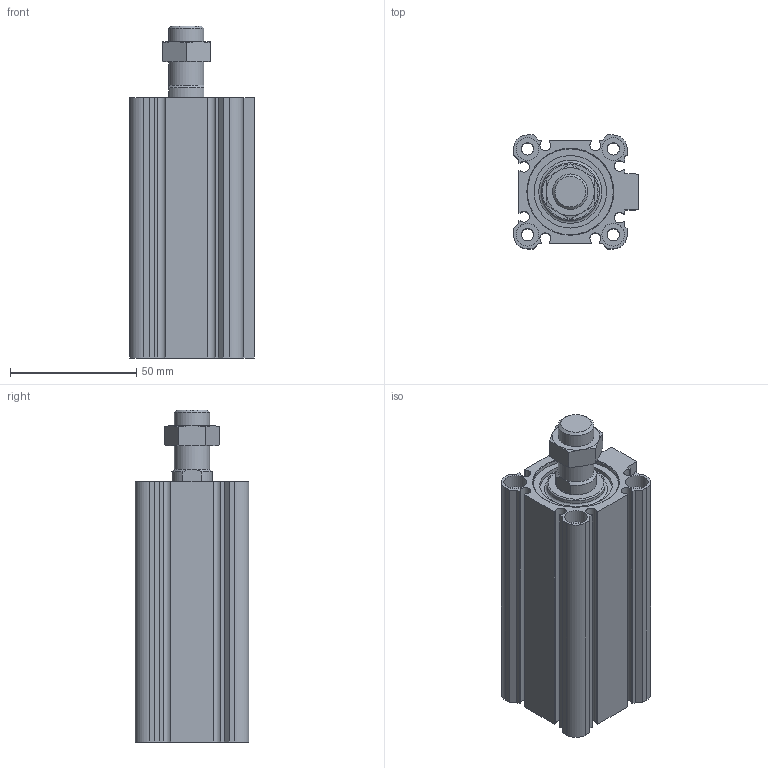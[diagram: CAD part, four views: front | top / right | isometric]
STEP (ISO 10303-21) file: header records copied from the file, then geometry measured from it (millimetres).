
FILE_DESCRIPTION( ( 'STEP AP214' ), '1' );
FILE_NAME( 'C:/Users/emc02044/Desktop/SQN SQN big size/SQN32X70-S-M.stp', '2026-07-29T01:49:08', ( 'License CC BY-ND 4.0' ), ( 'CADENAS' ), ' ', 'PARTsolutions', ' ' );
FILE_SCHEMA( ( 'AUTOMOTIVE_DESIGN { 1 0 10303 214 1 1 1 1 }' ) );
Length unit declared in the file: millimetre
Products named in the file (3): SQN32X70-S-M; _SQ32X70-S(0) ()_body; _SQ32X70-S-M(rod-0)
Assembly tree (2 placements, depth 2):
  SQN32X70-S-M
    _SQ32X70-S(0) ()_body
    _SQ32X70-S-M(rod-0)
Bounding box: 49.5 x 45 x 131.5 mm (x, y, z)
Volume: 130689.3 mm3; surface area: 56767.2 mm2
Topology: 2 solids, 2 shells, 157 faces, 355 edges, 229 vertices
Faces by surface type: plane 89, cylinder 44, cone 22, torus 2
Full cylindrical faces by diameter (mm): 4.917 x8, 5.5 x4, 8.566 x2, 9 x8, 14 x2, 16 x2, 23 x1, 28.7 x1, 32 x3, 34 x1
Entity records: 5560 total; most frequent: CARTESIAN_POINT 844, DIRECTION 716, ORIENTED_EDGE 620, EDGE_CURVE 310, AXIS2_PLACEMENT_3D 274, EDGE_LOOP 234, VERTEX_POINT 226, FACE_OUTER_BOUND 191
